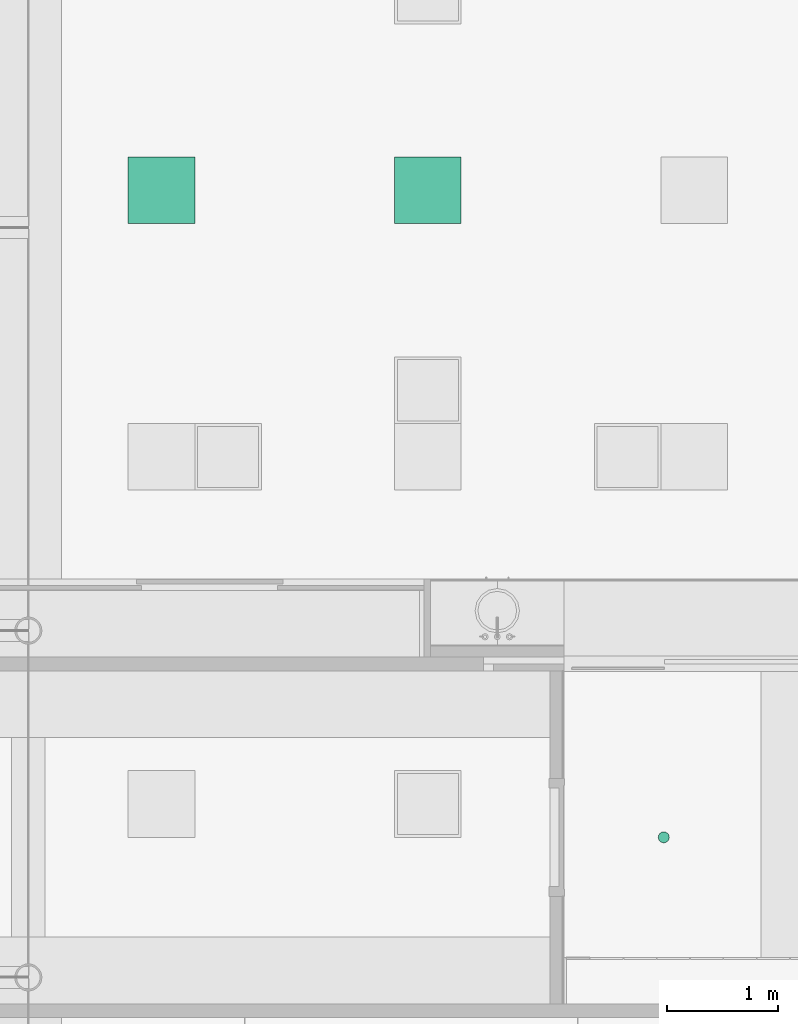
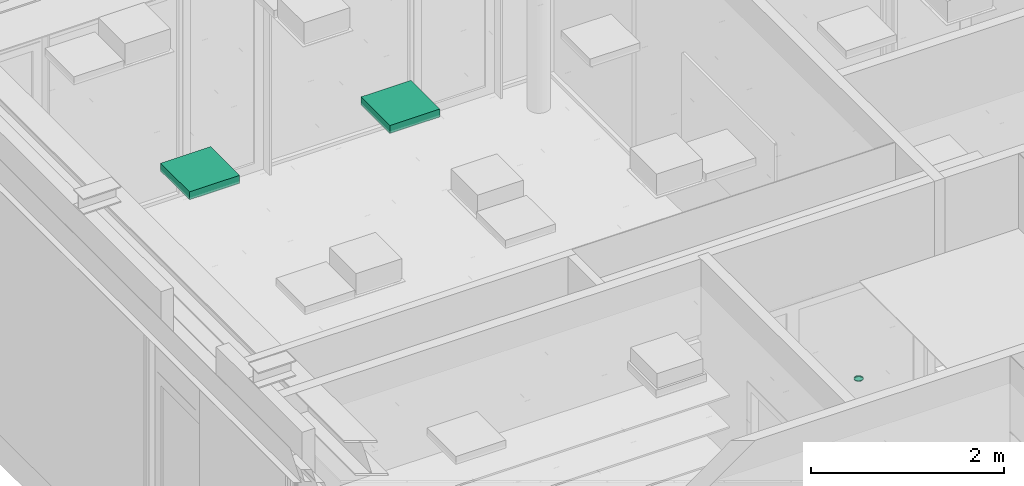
# One storey, part 276 of 347: 3 flow terminals.
"""IFC2X3 building model written with IfcOpenShell, lengths in millimetres."""

import ifcopenshell
import ifcopenshell.guid

model = None  # the IFC model being written
_history = None  # IfcOwnerHistory: only IFC2X3 demands one
_inside = {}  # id of a spatial element -> (the spatial element, [elements in it])
_under = {}  # id of a project, library or spatial element -> (it, [spatial elements below it])
_declared = {}  # id of a project -> (the project, [libraries it declares])
_typed = {}  # id of a type object -> (the type object, [elements of that type])
_made_of = {}  # id of a material, layer set ... -> (it, [elements and type objects made of it])


def new_model(schema):
    """Start an empty IFC model of exactly this schema.

    Asked for "IFC4X3", IfcOpenShell would pick the latest addendum, in which some entities
    have other attributes; the version numbers below select the first issue.
    IFC2X3 requires an IfcOwnerHistory on every rooted entity: one is made here for all.
    """
    global model, _history
    if schema == "IFC4X3":
        model = ifcopenshell.file(schema_version=(4, 3, 0, 0))
    else:
        model = ifcopenshell.file(schema=schema)
    _inside.clear()
    _under.clear()
    _declared.clear()
    _typed.clear()
    _made_of.clear()
    _history = None
    if model.schema == "IFC2X3":
        org = make("IfcOrganization", Name="unknown")
        user = make(
            "IfcPersonAndOrganization",
            ThePerson=make("IfcPerson", FamilyName="unknown"),
            TheOrganization=org,
        )
        app = make(
            "IfcApplication",
            ApplicationDeveloper=org,
            Version="unknown",
            ApplicationFullName="unknown",
            ApplicationIdentifier="unknown",
        )
        _history = make(
            "IfcOwnerHistory",
            OwningUser=user,
            OwningApplication=app,
            ChangeAction="ADDED",
            CreationDate=0,
        )
    return model


def make(cls, **values):
    """One entity of the class cls with the attributes given. An attribute that is None is left unset."""
    return model.create_entity(
        cls, **{name: value for name, value in values.items() if value is not None}
    )


def entity(cls, *values):
    """Any entity or typed value of the class cls, its attributes in the order of the schema. None: left unset."""
    e = model.create_entity(cls)
    for i, value in enumerate(values):
        if value is not None:
            e[i] = value
    return e


def rooted(cls, **values):
    """An entity with a GlobalId (a new one), such as an element, a storey or a relation."""
    return make(cls, GlobalId=ifcopenshell.guid.new(), OwnerHistory=_history, **values)


def si_unit(unit_type, name, prefix=None):
    """IfcSIUnit, for example si_unit("LENGTHUNIT", "METRE", prefix="MILLI")."""
    return make("IfcSIUnit", UnitType=unit_type, Prefix=prefix, Name=name)


def converted_unit(unit_type, name, factor, base, dimensions=None, offset=None):
    """IfcConversionBasedUnit, such as the inch: factor (a typed value) times the base unit."""
    return make(
        "IfcConversionBasedUnit"
        if offset is None
        else "IfcConversionBasedUnitWithOffset",
        ConversionOffset=offset,
        Dimensions=None
        if dimensions is None
        else entity("IfcDimensionalExponents", *dimensions),
        UnitType=unit_type,
        Name=name,
        ConversionFactor=make(
            "IfcMeasureWithUnit", ValueComponent=factor, UnitComponent=base
        ),
    )


def derived_unit(unit_type, elements):
    """IfcDerivedUnit: a product of units, each with its exponent."""
    return make(
        "IfcDerivedUnit",
        Elements=[
            make("IfcDerivedUnitElement", Unit=unit, Exponent=power)
            for unit, power in elements
        ],
        UnitType=unit_type,
    )


def money_unit(currency):
    """IfcMonetaryUnit."""
    return make("IfcMonetaryUnit", Currency=currency)


def assignment(units):
    """IfcUnitAssignment: the units of a project."""
    return None if units is None else make("IfcUnitAssignment", Units=units)


def point(xyz):
    """IfcCartesianPoint."""
    return None if xyz is None else make("IfcCartesianPoint", Coordinates=xyz)


def direction(xyz):
    """IfcDirection."""
    return None if xyz is None else make("IfcDirection", DirectionRatios=xyz)


def frame(location, z_axis=None, x_axis=None):
    """IfcAxis2Placement3D, a coordinate frame: its origin and axes. An axis left out is left unset."""
    return make(
        "IfcAxis2Placement3D",
        Location=point(location),
        Axis=direction(z_axis),
        RefDirection=direction(x_axis),
    )


def origin_with_axes():
    """The frame at (0, 0, 0) with the z axis (0, 0, 1) and the x axis (1, 0, 0) written out."""
    return frame((0.0, 0.0, 0.0), z_axis=(0.0, 0.0, 1.0), x_axis=(1.0, 0.0, 0.0))


def place(relative_to, where):
    """IfcLocalPlacement: puts the frame where relative to a parent placement (None: the world)."""
    return make(
        "IfcLocalPlacement", PlacementRelTo=relative_to, RelativePlacement=where
    )


def context(
    kind, dimensions, precision=None, world=None, true_north=None, identifier=None
):
    """IfcGeometricRepresentationContext, for example the 3D "Model" context."""
    return make(
        "IfcGeometricRepresentationContext",
        ContextIdentifier=identifier,
        ContextType=kind,
        CoordinateSpaceDimension=dimensions,
        Precision=precision,
        WorldCoordinateSystem=world,
        TrueNorth=true_north,
    )


def subcontext(parent, identifier, kind, view, scale=None):
    """IfcGeometricRepresentationSubContext, for example "Body" below "Model"."""
    return make(
        "IfcGeometricRepresentationSubContext",
        ContextIdentifier=identifier,
        ContextType=kind,
        ParentContext=parent,
        TargetScale=scale,
        TargetView=view,
    )


def project(units=None, contexts=None):
    """IfcProject with its units and contexts."""
    return rooted(
        "IfcProject",
        Name="project",
        RepresentationContexts=contexts,
        UnitsInContext=assignment(units),
    )


def spatial(cls, under=None, at=None, **own):
    """A site, building, storey or space (cls), placed at a placement, below another one or the project."""
    s = rooted(cls, ObjectPlacement=at, **own)
    if under is not None:
        _under.setdefault(under.id(), (under, []))[1].append(s)
    return s


def faces_of(points, faces, orient=None, outer=None):
    """IfcFace entities. A face is a list of loops; a loop is a list of indices into points, from 0.

    orient and outer hold one flag for each loop. By default every Orientation is true, the
    first loop of a face is its IfcFaceOuterBound and the others are IfcFaceBound.
    """
    made = []
    for i, loops in enumerate(faces):
        bounds = []
        for j, loop in enumerate(loops):
            is_outer = j == 0 if outer is None else outer[i][j]
            bounds.append(
                make(
                    "IfcFaceOuterBound" if is_outer else "IfcFaceBound",
                    Bound=make("IfcPolyLoop", Polygon=[points[k] for k in loop]),
                    Orientation=True if orient is None else orient[i][j],
                )
            )
        made.append(make("IfcFace", Bounds=bounds))
    return made


def open_shell(faces, orient=None, outer=None):
    """The faces of one IfcOpenShell. surface_model builds it on its shared points."""
    return ("IfcOpenShell", faces, orient, outer)


def faceted_brep(points, faces, orient=None, outer=None, voids=None):
    """IfcFacetedBrep: a solid bounded by flat faces; with voids (closed shells), ...WithVoids."""
    shared = [point(p) for p in points]
    hull = make("IfcClosedShell", CfsFaces=faces_of(shared, faces, orient, outer))
    if voids is None:
        return make("IfcFacetedBrep", Outer=hull)
    return make(
        "IfcFacetedBrepWithVoids",
        Outer=hull,
        Voids=[
            make(cls, CfsFaces=faces_of(shared, fs, o, b)) for cls, fs, o, b in voids
        ],
    )


def surface_model(cls, points, shells):
    """IfcFaceBasedSurfaceModel or IfcShellBasedSurfaceModel (cls): surfaces that need not close."""
    shared = [point(p) for p in points]
    made = [make(c, CfsFaces=faces_of(shared, fs, o, b)) for c, fs, o, b in shells]
    if cls == "IfcFaceBasedSurfaceModel":
        return make(cls, FbsmFaces=made)
    return make(cls, SbsmBoundary=made)


def shape(context_of_items, identifier, shape_type, items):
    """IfcShapeRepresentation: the items that make up one representation, for example the "Body"."""
    return make(
        "IfcShapeRepresentation",
        ContextOfItems=context_of_items,
        RepresentationIdentifier=identifier,
        RepresentationType=shape_type,
        Items=items,
    )


def source(mapping_origin, context_of_items, identifier, shape_type, items):
    """IfcRepresentationMap: a shape defined once, which mapped items show again and again."""
    return make(
        "IfcRepresentationMap",
        MappingOrigin=mapping_origin,
        MappedRepresentation=shape(context_of_items, identifier, shape_type, items),
    )


def transform(
    local_origin,
    x_axis=None,
    y_axis=None,
    z_axis=None,
    scale=None,
    scale2=None,
    scale3=None,
    uniform=True,
):
    """IfcCartesianTransformationOperator3D, or its non-uniform kind. x_axis, y_axis, z_axis: its Axis1, 2, 3."""
    if uniform:
        return make(
            "IfcCartesianTransformationOperator3D",
            Axis1=direction(x_axis),
            Axis2=direction(y_axis),
            LocalOrigin=point(local_origin),
            Scale=scale,
            Axis3=direction(z_axis),
        )
    return make(
        "IfcCartesianTransformationOperator3DnonUniform",
        Axis1=direction(x_axis),
        Axis2=direction(y_axis),
        LocalOrigin=point(local_origin),
        Scale=scale,
        Axis3=direction(z_axis),
        Scale2=scale2,
        Scale3=scale3,
    )


def mapped(mapping_source, mapping_target):
    """IfcMappedItem: shows the shape of a source again, moved by a transform."""
    return make(
        "IfcMappedItem", MappingSource=mapping_source, MappingTarget=mapping_target
    )


def made_of(thing, what):
    """Note that an element or type object is made of a material, layer set ...; save() writes the relation."""
    if what is not None:
        _made_of.setdefault(what.id(), (what, []))[1].append(thing)
    return thing


def type_object(cls, material=None, **own):
    """A type object (cls), such as IfcWallType, which elements share."""
    return made_of(rooted(cls, **own), material)


def type_shapes(of_type, sources):
    """Give a type object the sources (RepresentationMaps) that its elements show as mapped items."""
    of_type.RepresentationMaps = sources


def element(
    cls,
    number,
    at=None,
    inside=None,
    cuts=None,
    type_object=None,
    material=None,
    context=None,
    identifier="Body",
    shape_type=None,
    held_by="IfcProductDefinitionShape",
    body=None,
    shapes=None,
    **own,
):
    """One element of the class cls, such as IfcWall. Its Tag is "e" and its number.

    at: its placement. inside: the storey or other place that contains it. cuts: it is an
    opening in that element (IfcRelVoidsElement). A single representation is given by context,
    identifier, shape_type and body (its items); several are given by shapes. held_by: the class
    of the entity that holds the representations. save() writes the other relations.
    """
    e = rooted(cls, Tag="e%d" % number, ObjectPlacement=at, **own)
    if body is not None:
        shapes = [shape(context, identifier, shape_type, body)]
    if shapes is not None:
        e.Representation = make(held_by, Representations=shapes)
    if inside is not None:
        _inside.setdefault(inside.id(), (inside, []))[1].append(e)
    if cuts is not None:
        rooted(
            "IfcRelVoidsElement", RelatingBuildingElement=cuts, RelatedOpeningElement=e
        )
    if type_object is not None:
        _typed.setdefault(type_object.id(), (type_object, []))[1].append(e)
    return made_of(e, material)


def aggregate(whole, parts):
    """IfcRelAggregates: a whole, such as a stair, and the parts it consists of."""
    return rooted("IfcRelAggregates", RelatingObject=whole, RelatedObjects=parts)


def save(model, path):
    """Write the relations noted so far, then the file.

    IfcRelAggregates (storeys below a building ...), IfcRelContainedInSpatialStructure (elements
    in a storey), IfcRelDefinesByType, IfcRelAssociatesMaterial and IfcRelDeclares: one each for
    every whole, place, type object, material and project.
    """
    for whole, parts in _under.values():
        aggregate(whole, parts)
    for where, things in _inside.values():
        rooted(
            "IfcRelContainedInSpatialStructure",
            RelatedElements=things,
            RelatingStructure=where,
        )
    for kind, things in _typed.values():
        rooted("IfcRelDefinesByType", RelatedObjects=things, RelatingType=kind)
    for what, things in _made_of.values():
        rooted("IfcRelAssociatesMaterial", RelatedObjects=things, RelatingMaterial=what)
    for by, libraries in _declared.values():
        rooted("IfcRelDeclares", RelatingContext=by, RelatedDefinitions=libraries)
    model.write(path)


model = new_model("IFC2X3")

# Units and contexts
model_context = context("Model", 3, precision=0.01, world=origin_with_axes(), true_north=direction((0.0, 1.0)))
plan_context = context("Plan", 3, precision=0.01, world=origin_with_axes(), true_north=direction((0.0, 1.0)))
body_context = subcontext(model_context, "Body", "Model", "MODEL_VIEW")
ifc_project = project(units=[si_unit("LENGTHUNIT", "METRE", prefix="MILLI"), si_unit("AREAUNIT", "SQUARE_METRE"), si_unit("VOLUMEUNIT", "CUBIC_METRE"), converted_unit("PLANEANGLEUNIT", "DEGREE", entity("IfcPlaneAngleMeasure", 0.0174532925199), si_unit("PLANEANGLEUNIT", "RADIAN"), dimensions=[0, 0, 0, 0, 0, 0, 0]), money_unit("EUR"), converted_unit("TIMEUNIT", "Year", entity("IfcTimeMeasure", 31556926.0), si_unit("TIMEUNIT", "SECOND"), dimensions=[0, 0, 1, 0, 0, 0, 0]), si_unit("MASSUNIT", "GRAM", prefix="KILO"), si_unit("THERMODYNAMICTEMPERATUREUNIT", "DEGREE_CELSIUS"), si_unit("LUMINOUSINTENSITYUNIT", "LUMEN"), si_unit("ENERGYUNIT", "JOULE", prefix="MEGA"), derived_unit("THERMALCONDUCTANCEUNIT", [(si_unit("POWERUNIT", "WATT"), 1), (si_unit("LENGTHUNIT", "METRE"), -1), (si_unit("THERMODYNAMICTEMPERATUREUNIT", "KELVIN"), -1)]), derived_unit("SPECIFICHEATCAPACITYUNIT", [(si_unit("ENERGYUNIT", "JOULE"), 1), (si_unit("MASSUNIT", "GRAM", prefix="KILO"), -1), (si_unit("THERMODYNAMICTEMPERATUREUNIT", "KELVIN"), -1)]), derived_unit("MASSDENSITYUNIT", [(si_unit("MASSUNIT", "GRAM", prefix="KILO"), 1), (si_unit("VOLUMEUNIT", "CUBIC_METRE"), -1)])], contexts=[model_context, plan_context])

# Site, building, storey
site_placement = place(None, origin_with_axes())
site = spatial("IfcSite", under=ifc_project, at=site_placement, Name="Site", CompositionType="ELEMENT")
building_placement = place(site_placement, origin_with_axes())
building = spatial("IfcBuilding", under=site, at=building_placement, Name="Naam gebouw", CompositionType="ELEMENT")
storey_placement = place(building_placement, origin_with_axes())
storey = spatial("IfcBuildingStorey", under=building, at=storey_placement, Name="begane grond", CompositionType="ELEMENT", Elevation=0.0)

# Flow terminals
lamp_type_1 = type_object("IfcLampType", Name="Spot plafond 01 25", PredefinedType="NOTDEFINED")
shared_shape_1 = source(origin_with_axes(), body_context, "Body", "SurfaceModel", [
    faceted_brep([(50.0, 0.0, -10.0), (46.1939766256, 19.1341716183, -10.0), (46.1939766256, 19.1341716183, 0.0), (50.0, 0.0, 0.0), (46.1939766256, -19.1341716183, -10.0), (35.3553390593, -35.3553390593, -10.0), (19.1341716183, -46.1939766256, -10.0), (0.0, -50.0, -10.0), (-19.1341716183, -46.1939766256, -10.0), (-35.3553390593, -35.3553390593, -10.0), (-46.1939766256, -19.1341716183, -10.0), (-50.0, 0.0, -10.0), (-46.1939766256, 19.1341716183, -10.0), (-35.3553390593, 35.3553390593, -10.0), (-19.1341716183, 46.1939766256, -10.0), (0.0, 50.0, -10.0), (19.1341716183, 46.1939766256, -10.0), (35.3553390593, 35.3553390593, -10.0), (40.0, 0.0, -10.0), (36.9551813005, 15.3073372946, -10.0), (28.2842712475, 28.2842712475, -10.0), (15.3073372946, 36.9551813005, -10.0), (0.0, 40.0, -10.0), (-15.3073372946, 36.9551813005, -10.0), (-28.2842712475, 28.2842712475, -10.0), (-36.9551813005, 15.3073372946, -10.0), (-40.0, 0.0, -10.0), (-36.9551813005, -15.3073372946, -10.0), (-28.2842712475, -28.2842712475, -10.0), (-15.3073372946, -36.9551813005, -10.0), (0.0, -40.0, -10.0), (15.3073372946, -36.9551813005, -10.0), (28.2842712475, -28.2842712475, -10.0), (36.9551813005, -15.3073372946, -10.0), (35.3553390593, 35.3553390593, 0.0), (19.1341716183, 46.1939766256, 0.0), (0.0, 50.0, 0.0), (-19.1341716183, 46.1939766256, 0.0), (-35.3553390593, 35.3553390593, 0.0), (-46.1939766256, 19.1341716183, 0.0), (-50.0, 0.0, 0.0), (-46.1939766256, -19.1341716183, 0.0), (-35.3553390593, -35.3553390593, 0.0), (-19.1341716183, -46.1939766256, 0.0), (0.0, -50.0, 0.0), (19.1341716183, -46.1939766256, 0.0), (35.3553390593, -35.3553390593, 0.0), (46.1939766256, -19.1341716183, 0.0), (40.0, 0.0, 0.0), (36.9551813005, -15.3073372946, 0.0), (28.2842712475, -28.2842712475, 0.0), (15.3073372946, -36.9551813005, 0.0), (0.0, -40.0, 0.0), (-15.3073372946, -36.9551813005, 0.0), (-28.2842712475, -28.2842712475, 0.0), (-36.9551813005, -15.3073372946, 0.0), (-40.0, 0.0, 0.0), (-36.9551813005, 15.3073372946, 0.0), (-28.2842712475, 28.2842712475, 0.0), (-15.3073372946, 36.9551813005, 0.0), (0.0, 40.0, 0.0), (15.3073372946, 36.9551813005, 0.0), (28.2842712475, 28.2842712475, 0.0), (36.9551813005, 15.3073372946, 0.0)], [[[0, 1, 2, 3]], [[0, 4, 5, 6, 7, 8, 9, 10, 11, 12, 13, 14, 15, 16, 17, 1], [18, 19, 20, 21, 22, 23, 24, 25, 26, 27, 28, 29, 30, 31, 32, 33]], [[1, 17, 34, 2]], [[3, 2, 34, 35, 36, 37, 38, 39, 40, 41, 42, 43, 44, 45, 46, 47], [48, 49, 50, 51, 52, 53, 54, 55, 56, 57, 58, 59, 60, 61, 62, 63]], [[4, 0, 3, 47]], [[5, 4, 47, 46]], [[6, 5, 46, 45]], [[7, 6, 45, 44]], [[8, 7, 44, 43]], [[9, 8, 43, 42]], [[10, 9, 42, 41]], [[11, 10, 41, 40]], [[12, 11, 40, 39]], [[13, 12, 39, 38]], [[14, 13, 38, 37]], [[15, 14, 37, 36]], [[16, 15, 36, 35]], [[17, 16, 35, 34]], [[19, 18, 48, 63]], [[20, 19, 63, 62]], [[21, 20, 62, 61]], [[22, 21, 61, 60]], [[23, 22, 60, 59]], [[24, 23, 59, 58]], [[25, 24, 58, 57]], [[26, 25, 57, 56]], [[27, 26, 56, 55]], [[28, 27, 55, 54]], [[29, 28, 54, 53]], [[30, 29, 53, 52]], [[31, 30, 52, 51]], [[32, 31, 51, 50]], [[33, 32, 50, 49]], [[18, 33, 49, 48]]]),
    surface_model("IfcShellBasedSurfaceModel", [(40.0, 0.0, -8.9), (36.9551813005, -15.3073372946, -8.9), (28.2842712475, -28.2842712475, -8.9), (15.3073372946, -36.9551813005, -8.9), (0.0, -40.0, -8.9), (-15.3073372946, -36.9551813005, -8.9), (-28.2842712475, -28.2842712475, -8.9), (-36.9551813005, -15.3073372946, -8.9), (-40.0, 0.0, -8.9), (-36.9551813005, 15.3073372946, -8.9), (-28.2842712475, 28.2842712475, -8.9), (-15.3073372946, 36.9551813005, -8.9), (0.0, 40.0, -8.9), (15.3073372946, 36.9551813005, -8.9), (28.2842712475, 28.2842712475, -8.9), (36.9551813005, 15.3073372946, -8.9)], [open_shell([[[0, 1, 2, 3, 4, 5, 6, 7, 8, 9, 10, 11, 12, 13, 14, 15]]])]),
])
type_shapes(lamp_type_1, [shared_shape_1])
flow_terminal_placement = place(storey_placement, frame((30300.0, 37462.5, 2600.0), z_axis=(0.0, 0.0, 1.0), x_axis=(1.0, 0.0, 0.0)))
element("IfcFlowTerminal", 1, at=flow_terminal_placement, inside=storey, type_object=lamp_type_1, Name="63_Lamp-x", ObjectType="Lamp", context=body_context, shape_type="MappedRepresentation", body=[
    mapped(shared_shape_1, transform((0.0, 0.0, 0.0))),
])
lamp_type_2 = type_object("IfcLampType", Name="TL plafond 25", PredefinedType="NOTDEFINED")
shared_shape_2 = source(origin_with_axes(), body_context, "Body", "SurfaceModel", [
    faceted_brep([(0.0, 0.0, -100.0), (600.0, 0.0, -100.0), (600.0, 0.0, 0.0), (0.0, 0.0, 0.0), (0.0, 600.0, -100.0), (600.0, 600.0, -100.0), (40.0, 40.0, -100.0), (560.0, 40.0, -100.0), (560.0, 560.0, -100.0), (40.0, 560.0, -100.0), (600.0, 600.0, 0.0), (0.0, 600.0, 0.0), (40.0, 40.0, 0.0), (40.0, 560.0, 0.0), (560.0, 560.0, 0.0), (560.0, 40.0, 0.0)], [[[0, 1, 2, 3]], [[0, 4, 5, 1], [6, 7, 8, 9]], [[1, 5, 10, 2]], [[3, 2, 10, 11], [12, 13, 14, 15]], [[4, 0, 3, 11]], [[5, 4, 11, 10]], [[7, 6, 12, 15]], [[8, 7, 15, 14]], [[9, 8, 14, 13]], [[6, 9, 13, 12]]]),
    faceted_brep([(40.0, 40.0, -16.3333333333), (560.0, 40.0, -16.3333333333), (560.0, 40.0, 0.0), (40.0, 40.0, 0.0), (40.0, 560.0, -16.3333333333), (560.0, 560.0, -16.3333333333), (560.0, 560.0, 0.0), (40.0, 560.0, 0.0)], [[[0, 1, 2, 3]], [[0, 4, 5, 1]], [[1, 5, 6, 2]], [[3, 2, 6, 7]], [[4, 0, 3, 7]], [[5, 4, 7, 6]]]),
    surface_model("IfcShellBasedSurfaceModel", [(559.0, 41.0, -100.0), (40.0, 41.0, -100.0), (40.0, 559.0, -100.0), (559.0, 559.0, -100.0)], [open_shell([[[0, 1, 2, 3]]])]),
    faceted_brep([(40.0, 40.0, -100.0), (560.0, 40.0, -100.0), (560.0, 40.0, -60.0), (40.0, 40.0, -60.0), (40.0, 560.0, -100.0), (560.0, 560.0, -100.0), (41.0, 41.0, -100.0), (559.0, 41.0, -100.0), (559.0, 559.0, -100.0), (41.0, 559.0, -100.0), (560.0, 560.0, -60.0), (40.0, 560.0, -60.0), (41.0, 41.0, -60.0), (41.0, 559.0, -60.0), (559.0, 559.0, -60.0), (559.0, 41.0, -60.0)], [[[0, 1, 2, 3]], [[0, 4, 5, 1], [6, 7, 8, 9]], [[1, 5, 10, 2]], [[3, 2, 10, 11], [12, 13, 14, 15]], [[4, 0, 3, 11]], [[5, 4, 11, 10]], [[7, 6, 12, 15]], [[8, 7, 15, 14]], [[9, 8, 14, 13]], [[6, 9, 13, 12]]]),
    faceted_brep([(40.0, 144.0, -48.3333333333), (40.0, 149.740251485, -47.191526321), (560.0, 149.740251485, -47.191526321), (560.0, 144.0, -48.3333333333), (40.0, 138.259748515, -47.191526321), (40.0, 133.393398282, -43.9399350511), (40.0, 130.141807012, -39.0735848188), (40.0, 129.0, -33.3333333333), (40.0, 130.141807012, -27.5930818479), (40.0, 133.393398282, -22.7267316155), (40.0, 138.259748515, -19.4751403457), (40.0, 144.0, -18.3333333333), (40.0, 149.740251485, -19.4751403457), (40.0, 154.606601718, -22.7267316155), (40.0, 157.858192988, -27.5930818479), (40.0, 159.0, -33.3333333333), (40.0, 157.858192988, -39.0735848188), (40.0, 154.606601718, -43.9399350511), (40.0, 144.0, -46.3333333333), (40.0, 148.974884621, -45.343767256), (40.0, 153.192388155, -42.5257214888), (40.0, 156.010433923, -38.3082179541), (40.0, 157.0, -33.3333333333), (40.0, 156.010433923, -28.3584487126), (40.0, 153.192388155, -24.1409451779), (40.0, 148.974884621, -21.3228994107), (40.0, 144.0, -20.3333333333), (40.0, 139.025115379, -21.3228994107), (40.0, 134.807611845, -24.1409451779), (40.0, 131.989566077, -28.3584487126), (40.0, 131.0, -33.3333333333), (40.0, 131.989566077, -38.3082179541), (40.0, 134.807611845, -42.5257214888), (40.0, 139.025115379, -45.343767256), (560.0, 154.606601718, -43.9399350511), (560.0, 157.858192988, -39.0735848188), (560.0, 159.0, -33.3333333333), (560.0, 157.858192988, -27.5930818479), (560.0, 154.606601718, -22.7267316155), (560.0, 149.740251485, -19.4751403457), (560.0, 144.0, -18.3333333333), (560.0, 138.259748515, -19.4751403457), (560.0, 133.393398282, -22.7267316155), (560.0, 130.141807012, -27.5930818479), (560.0, 129.0, -33.3333333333), (560.0, 130.141807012, -39.0735848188), (560.0, 133.393398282, -43.9399350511), (560.0, 138.259748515, -47.191526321), (560.0, 144.0, -46.3333333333), (560.0, 139.025115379, -45.343767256), (560.0, 134.807611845, -42.5257214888), (560.0, 131.989566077, -38.3082179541), (560.0, 131.0, -33.3333333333), (560.0, 131.989566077, -28.3584487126), (560.0, 134.807611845, -24.1409451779), (560.0, 139.025115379, -21.3228994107), (560.0, 144.0, -20.3333333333), (560.0, 148.974884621, -21.3228994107), (560.0, 153.192388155, -24.1409451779), (560.0, 156.010433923, -28.3584487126), (560.0, 157.0, -33.3333333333), (560.0, 156.010433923, -38.3082179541), (560.0, 153.192388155, -42.5257214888), (560.0, 148.974884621, -45.343767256)], [[[0, 1, 2, 3]], [[0, 4, 5, 6, 7, 8, 9, 10, 11, 12, 13, 14, 15, 16, 17, 1], [18, 19, 20, 21, 22, 23, 24, 25, 26, 27, 28, 29, 30, 31, 32, 33]], [[1, 17, 34, 2]], [[3, 2, 34, 35, 36, 37, 38, 39, 40, 41, 42, 43, 44, 45, 46, 47], [48, 49, 50, 51, 52, 53, 54, 55, 56, 57, 58, 59, 60, 61, 62, 63]], [[4, 0, 3, 47]], [[5, 4, 47, 46]], [[6, 5, 46, 45]], [[7, 6, 45, 44]], [[8, 7, 44, 43]], [[9, 8, 43, 42]], [[10, 9, 42, 41]], [[11, 10, 41, 40]], [[12, 11, 40, 39]], [[13, 12, 39, 38]], [[14, 13, 38, 37]], [[15, 14, 37, 36]], [[16, 15, 36, 35]], [[17, 16, 35, 34]], [[19, 18, 48, 63]], [[20, 19, 63, 62]], [[21, 20, 62, 61]], [[22, 21, 61, 60]], [[23, 22, 60, 59]], [[24, 23, 59, 58]], [[25, 24, 58, 57]], [[26, 25, 57, 56]], [[27, 26, 56, 55]], [[28, 27, 55, 54]], [[29, 28, 54, 53]], [[30, 29, 53, 52]], [[31, 30, 52, 51]], [[32, 31, 51, 50]], [[33, 32, 50, 49]], [[18, 33, 49, 48]]]),
    faceted_brep([(40.0, 248.0, -48.3333333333), (40.0, 253.740251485, -47.191526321), (560.0, 253.740251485, -47.191526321), (560.0, 248.0, -48.3333333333), (40.0, 242.259748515, -47.191526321), (40.0, 237.393398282, -43.9399350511), (40.0, 234.141807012, -39.0735848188), (40.0, 233.0, -33.3333333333), (40.0, 234.141807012, -27.5930818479), (40.0, 237.393398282, -22.7267316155), (40.0, 242.259748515, -19.4751403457), (40.0, 248.0, -18.3333333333), (40.0, 253.740251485, -19.4751403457), (40.0, 258.606601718, -22.7267316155), (40.0, 261.858192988, -27.5930818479), (40.0, 263.0, -33.3333333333), (40.0, 261.858192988, -39.0735848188), (40.0, 258.606601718, -43.9399350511), (40.0, 248.0, -46.3333333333), (40.0, 252.974884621, -45.343767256), (40.0, 257.192388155, -42.5257214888), (40.0, 260.010433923, -38.3082179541), (40.0, 261.0, -33.3333333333), (40.0, 260.010433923, -28.3584487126), (40.0, 257.192388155, -24.1409451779), (40.0, 252.974884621, -21.3228994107), (40.0, 248.0, -20.3333333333), (40.0, 243.025115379, -21.3228994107), (40.0, 238.807611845, -24.1409451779), (40.0, 235.989566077, -28.3584487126), (40.0, 235.0, -33.3333333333), (40.0, 235.989566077, -38.3082179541), (40.0, 238.807611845, -42.5257214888), (40.0, 243.025115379, -45.343767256), (560.0, 258.606601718, -43.9399350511), (560.0, 261.858192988, -39.0735848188), (560.0, 263.0, -33.3333333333), (560.0, 261.858192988, -27.5930818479), (560.0, 258.606601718, -22.7267316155), (560.0, 253.740251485, -19.4751403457), (560.0, 248.0, -18.3333333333), (560.0, 242.259748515, -19.4751403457), (560.0, 237.393398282, -22.7267316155), (560.0, 234.141807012, -27.5930818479), (560.0, 233.0, -33.3333333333), (560.0, 234.141807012, -39.0735848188), (560.0, 237.393398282, -43.9399350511), (560.0, 242.259748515, -47.191526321), (560.0, 248.0, -46.3333333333), (560.0, 243.025115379, -45.343767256), (560.0, 238.807611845, -42.5257214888), (560.0, 235.989566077, -38.3082179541), (560.0, 235.0, -33.3333333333), (560.0, 235.989566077, -28.3584487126), (560.0, 238.807611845, -24.1409451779), (560.0, 243.025115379, -21.3228994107), (560.0, 248.0, -20.3333333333), (560.0, 252.974884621, -21.3228994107), (560.0, 257.192388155, -24.1409451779), (560.0, 260.010433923, -28.3584487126), (560.0, 261.0, -33.3333333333), (560.0, 260.010433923, -38.3082179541), (560.0, 257.192388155, -42.5257214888), (560.0, 252.974884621, -45.343767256)], [[[0, 1, 2, 3]], [[0, 4, 5, 6, 7, 8, 9, 10, 11, 12, 13, 14, 15, 16, 17, 1], [18, 19, 20, 21, 22, 23, 24, 25, 26, 27, 28, 29, 30, 31, 32, 33]], [[1, 17, 34, 2]], [[3, 2, 34, 35, 36, 37, 38, 39, 40, 41, 42, 43, 44, 45, 46, 47], [48, 49, 50, 51, 52, 53, 54, 55, 56, 57, 58, 59, 60, 61, 62, 63]], [[4, 0, 3, 47]], [[5, 4, 47, 46]], [[6, 5, 46, 45]], [[7, 6, 45, 44]], [[8, 7, 44, 43]], [[9, 8, 43, 42]], [[10, 9, 42, 41]], [[11, 10, 41, 40]], [[12, 11, 40, 39]], [[13, 12, 39, 38]], [[14, 13, 38, 37]], [[15, 14, 37, 36]], [[16, 15, 36, 35]], [[17, 16, 35, 34]], [[19, 18, 48, 63]], [[20, 19, 63, 62]], [[21, 20, 62, 61]], [[22, 21, 61, 60]], [[23, 22, 60, 59]], [[24, 23, 59, 58]], [[25, 24, 58, 57]], [[26, 25, 57, 56]], [[27, 26, 56, 55]], [[28, 27, 55, 54]], [[29, 28, 54, 53]], [[30, 29, 53, 52]], [[31, 30, 52, 51]], [[32, 31, 51, 50]], [[33, 32, 50, 49]], [[18, 33, 49, 48]]]),
    faceted_brep([(40.0, 352.0, -48.3333333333), (40.0, 357.740251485, -47.191526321), (560.0, 357.740251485, -47.191526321), (560.0, 352.0, -48.3333333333), (40.0, 346.259748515, -47.191526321), (40.0, 341.393398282, -43.9399350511), (40.0, 338.141807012, -39.0735848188), (40.0, 337.0, -33.3333333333), (40.0, 338.141807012, -27.5930818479), (40.0, 341.393398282, -22.7267316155), (40.0, 346.259748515, -19.4751403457), (40.0, 352.0, -18.3333333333), (40.0, 357.740251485, -19.4751403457), (40.0, 362.606601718, -22.7267316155), (40.0, 365.858192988, -27.5930818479), (40.0, 367.0, -33.3333333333), (40.0, 365.858192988, -39.0735848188), (40.0, 362.606601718, -43.9399350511), (40.0, 352.0, -46.3333333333), (40.0, 356.974884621, -45.343767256), (40.0, 361.192388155, -42.5257214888), (40.0, 364.010433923, -38.3082179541), (40.0, 365.0, -33.3333333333), (40.0, 364.010433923, -28.3584487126), (40.0, 361.192388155, -24.1409451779), (40.0, 356.974884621, -21.3228994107), (40.0, 352.0, -20.3333333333), (40.0, 347.025115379, -21.3228994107), (40.0, 342.807611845, -24.1409451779), (40.0, 339.989566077, -28.3584487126), (40.0, 339.0, -33.3333333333), (40.0, 339.989566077, -38.3082179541), (40.0, 342.807611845, -42.5257214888), (40.0, 347.025115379, -45.343767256), (560.0, 362.606601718, -43.9399350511), (560.0, 365.858192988, -39.0735848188), (560.0, 367.0, -33.3333333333), (560.0, 365.858192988, -27.5930818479), (560.0, 362.606601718, -22.7267316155), (560.0, 357.740251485, -19.4751403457), (560.0, 352.0, -18.3333333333), (560.0, 346.259748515, -19.4751403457), (560.0, 341.393398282, -22.7267316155), (560.0, 338.141807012, -27.5930818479), (560.0, 337.0, -33.3333333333), (560.0, 338.141807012, -39.0735848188), (560.0, 341.393398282, -43.9399350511), (560.0, 346.259748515, -47.191526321), (560.0, 352.0, -46.3333333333), (560.0, 347.025115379, -45.343767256), (560.0, 342.807611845, -42.5257214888), (560.0, 339.989566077, -38.3082179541), (560.0, 339.0, -33.3333333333), (560.0, 339.989566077, -28.3584487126), (560.0, 342.807611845, -24.1409451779), (560.0, 347.025115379, -21.3228994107), (560.0, 352.0, -20.3333333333), (560.0, 356.974884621, -21.3228994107), (560.0, 361.192388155, -24.1409451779), (560.0, 364.010433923, -28.3584487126), (560.0, 365.0, -33.3333333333), (560.0, 364.010433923, -38.3082179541), (560.0, 361.192388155, -42.5257214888), (560.0, 356.974884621, -45.343767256)], [[[0, 1, 2, 3]], [[0, 4, 5, 6, 7, 8, 9, 10, 11, 12, 13, 14, 15, 16, 17, 1], [18, 19, 20, 21, 22, 23, 24, 25, 26, 27, 28, 29, 30, 31, 32, 33]], [[1, 17, 34, 2]], [[3, 2, 34, 35, 36, 37, 38, 39, 40, 41, 42, 43, 44, 45, 46, 47], [48, 49, 50, 51, 52, 53, 54, 55, 56, 57, 58, 59, 60, 61, 62, 63]], [[4, 0, 3, 47]], [[5, 4, 47, 46]], [[6, 5, 46, 45]], [[7, 6, 45, 44]], [[8, 7, 44, 43]], [[9, 8, 43, 42]], [[10, 9, 42, 41]], [[11, 10, 41, 40]], [[12, 11, 40, 39]], [[13, 12, 39, 38]], [[14, 13, 38, 37]], [[15, 14, 37, 36]], [[16, 15, 36, 35]], [[17, 16, 35, 34]], [[19, 18, 48, 63]], [[20, 19, 63, 62]], [[21, 20, 62, 61]], [[22, 21, 61, 60]], [[23, 22, 60, 59]], [[24, 23, 59, 58]], [[25, 24, 58, 57]], [[26, 25, 57, 56]], [[27, 26, 56, 55]], [[28, 27, 55, 54]], [[29, 28, 54, 53]], [[30, 29, 53, 52]], [[31, 30, 52, 51]], [[32, 31, 51, 50]], [[33, 32, 50, 49]], [[18, 33, 49, 48]]]),
    faceted_brep([(40.0, 456.0, -48.3333333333), (40.0, 461.740251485, -47.191526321), (560.0, 461.740251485, -47.191526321), (560.0, 456.0, -48.3333333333), (40.0, 450.259748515, -47.191526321), (40.0, 445.393398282, -43.9399350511), (40.0, 442.141807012, -39.0735848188), (40.0, 441.0, -33.3333333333), (40.0, 442.141807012, -27.5930818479), (40.0, 445.393398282, -22.7267316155), (40.0, 450.259748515, -19.4751403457), (40.0, 456.0, -18.3333333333), (40.0, 461.740251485, -19.4751403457), (40.0, 466.606601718, -22.7267316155), (40.0, 469.858192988, -27.5930818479), (40.0, 471.0, -33.3333333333), (40.0, 469.858192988, -39.0735848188), (40.0, 466.606601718, -43.9399350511), (40.0, 456.0, -46.3333333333), (40.0, 460.974884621, -45.343767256), (40.0, 465.192388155, -42.5257214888), (40.0, 468.010433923, -38.3082179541), (40.0, 469.0, -33.3333333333), (40.0, 468.010433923, -28.3584487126), (40.0, 465.192388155, -24.1409451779), (40.0, 460.974884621, -21.3228994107), (40.0, 456.0, -20.3333333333), (40.0, 451.025115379, -21.3228994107), (40.0, 446.807611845, -24.1409451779), (40.0, 443.989566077, -28.3584487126), (40.0, 443.0, -33.3333333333), (40.0, 443.989566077, -38.3082179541), (40.0, 446.807611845, -42.5257214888), (40.0, 451.025115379, -45.343767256), (560.0, 466.606601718, -43.9399350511), (560.0, 469.858192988, -39.0735848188), (560.0, 471.0, -33.3333333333), (560.0, 469.858192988, -27.5930818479), (560.0, 466.606601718, -22.7267316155), (560.0, 461.740251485, -19.4751403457), (560.0, 456.0, -18.3333333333), (560.0, 450.259748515, -19.4751403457), (560.0, 445.393398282, -22.7267316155), (560.0, 442.141807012, -27.5930818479), (560.0, 441.0, -33.3333333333), (560.0, 442.141807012, -39.0735848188), (560.0, 445.393398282, -43.9399350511), (560.0, 450.259748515, -47.191526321), (560.0, 456.0, -46.3333333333), (560.0, 451.025115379, -45.343767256), (560.0, 446.807611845, -42.5257214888), (560.0, 443.989566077, -38.3082179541), (560.0, 443.0, -33.3333333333), (560.0, 443.989566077, -28.3584487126), (560.0, 446.807611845, -24.1409451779), (560.0, 451.025115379, -21.3228994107), (560.0, 456.0, -20.3333333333), (560.0, 460.974884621, -21.3228994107), (560.0, 465.192388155, -24.1409451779), (560.0, 468.010433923, -28.3584487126), (560.0, 469.0, -33.3333333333), (560.0, 468.010433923, -38.3082179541), (560.0, 465.192388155, -42.5257214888), (560.0, 460.974884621, -45.343767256)], [[[0, 1, 2, 3]], [[0, 4, 5, 6, 7, 8, 9, 10, 11, 12, 13, 14, 15, 16, 17, 1], [18, 19, 20, 21, 22, 23, 24, 25, 26, 27, 28, 29, 30, 31, 32, 33]], [[1, 17, 34, 2]], [[3, 2, 34, 35, 36, 37, 38, 39, 40, 41, 42, 43, 44, 45, 46, 47], [48, 49, 50, 51, 52, 53, 54, 55, 56, 57, 58, 59, 60, 61, 62, 63]], [[4, 0, 3, 47]], [[5, 4, 47, 46]], [[6, 5, 46, 45]], [[7, 6, 45, 44]], [[8, 7, 44, 43]], [[9, 8, 43, 42]], [[10, 9, 42, 41]], [[11, 10, 41, 40]], [[12, 11, 40, 39]], [[13, 12, 39, 38]], [[14, 13, 38, 37]], [[15, 14, 37, 36]], [[16, 15, 36, 35]], [[17, 16, 35, 34]], [[19, 18, 48, 63]], [[20, 19, 63, 62]], [[21, 20, 62, 61]], [[22, 21, 61, 60]], [[23, 22, 60, 59]], [[24, 23, 59, 58]], [[25, 24, 58, 57]], [[26, 25, 57, 56]], [[27, 26, 56, 55]], [[28, 27, 55, 54]], [[29, 28, 54, 53]], [[30, 29, 53, 52]], [[31, 30, 52, 51]], [[32, 31, 51, 50]], [[33, 32, 50, 49]], [[18, 33, 49, 48]]]),
])
type_shapes(lamp_type_2, [shared_shape_2])
for number, where, z_axis, x_axis, name in (
    (2, (27875.0000157, 42990.5, 3295.0), (0.0, 0.0, 1.0), (1.0, 0.0, 0.0), "63_Lamp-x"),
    (3, (25475.0000157, 42990.5011494, 3295.0), (0.0, 0.0, 1.0), (1.0, 0.0, 0.0), "63_Lamp-x"),
):
    element("IfcFlowTerminal", number, at=place(storey_placement, frame(where, z_axis=z_axis, x_axis=x_axis)), inside=storey, type_object=lamp_type_2, Name=name, ObjectType="Lamp", context=body_context, shape_type="MappedRepresentation", body=[
        mapped(shared_shape_2, transform((0.0, 0.0, 0.0))),
    ])

save(model, "model.ifc")
